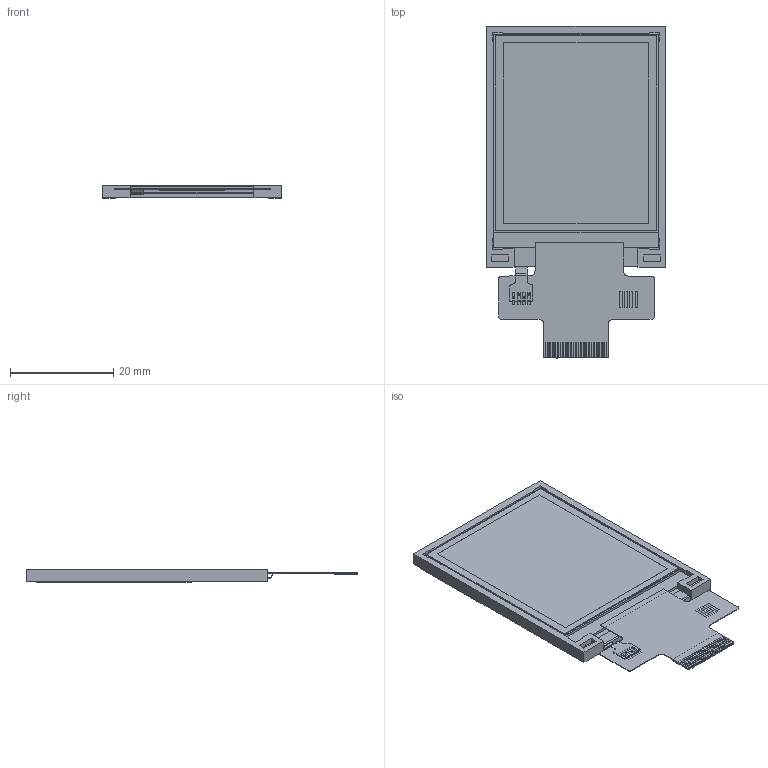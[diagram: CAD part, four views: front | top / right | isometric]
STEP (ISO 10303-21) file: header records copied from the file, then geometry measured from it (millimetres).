
FILE_DESCRIPTION (( 'STEP AP203' ), '1' );
FILE_NAME ('NHD-1.8-128160EF-SSXN-F_Rev1B.STEP', '2023-07-31T16:31:06', ( '' ), ( '' ), 'SwSTEP 2.0', 'SolidWorks 2019', '' );
FILE_SCHEMA (( 'CONFIG_CONTROL_DESIGN' ));
Length unit declared in the file: millimetre
Products named in the file (1): NHD-1.8-128160EF-SSXN-F_Rev1B
Bounding box: 34.7 x 64.38 x 2.5 mm (x, y, z)
Volume: 3623 mm3; surface area: 17396.3 mm2
Topology: 47 solids, 47 shells, 360 faces, 789 edges, 527 vertices
Faces by surface type: plane 335, cylinder 20, bspline 5
Entity records: 10133 total; most frequent: CARTESIAN_POINT 2154, ORIENTED_EDGE 1578, DIRECTION 1539, EDGE_CURVE 789, LINE 731, VECTOR 731, VERTEX_POINT 527, AXIS2_PLACEMENT_3D 404
